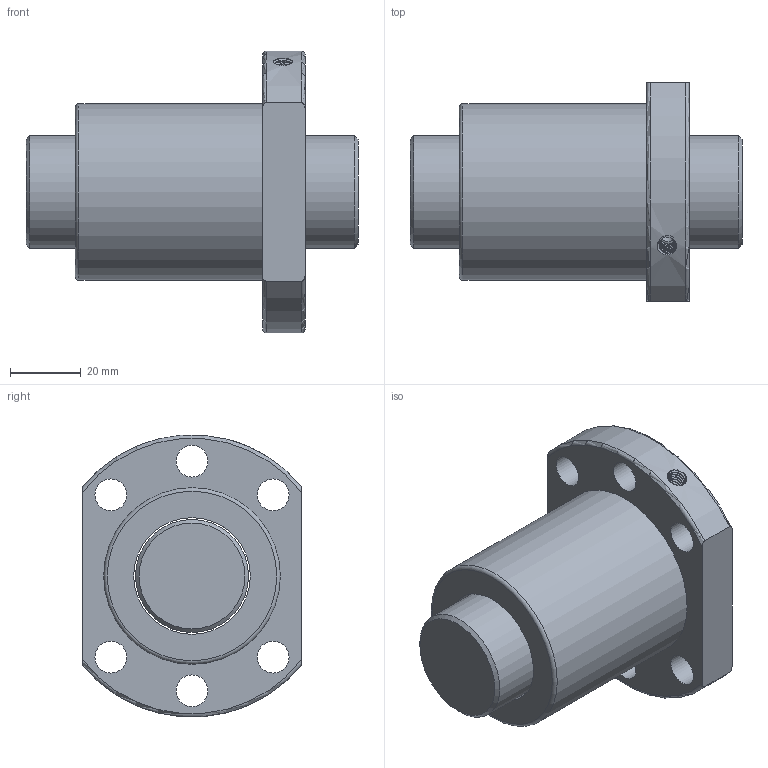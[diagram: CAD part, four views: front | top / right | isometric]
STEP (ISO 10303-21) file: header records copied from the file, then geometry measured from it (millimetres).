
FILE_DESCRIPTION(/* description */ ('Unknown','CAx-IF Rec.Pracs.---Representation and Presentation of Product Manufacturing Information (PMI)---4.0---2014-10-13','CAx-IF Rec.Pracs.---3D Tessellated Geometry---0.4---2014-09-14','2;1'),/* implementation_level */ '2;1');
FILE_NAME(/* name */ 'SFU03208',/* time_stamp */ '2020-12-07T16:50:29+08:00',/* author */ ('Unknown'),/* organization */ ('Unknown'),/* preprocessor_version */ 'ST-DEVELOPER v16.7',/* originating_system */ 'Solid Edge',/* authorisation */ 'Unknown');
FILE_SCHEMA (('AP242_MANAGED_MODEL_BASED_3D_ENGINEERING_MIM_LF { 1 0 10303 442 1 1 4 }'));
Length unit declared in the file: millimetre
Products named in the file (1): SFU03208
Bounding box: 94 x 62 x 79.74 mm (x, y, z)
Volume: 171776 mm3; surface area: 37486.2 mm2
Topology: 2 solids, 2 shells, 31 faces, 73 edges, 48 vertices
Faces by surface type: cylinder 14, plane 8, torus 5, cone 2, bspline 2
Full cylindrical faces by diameter (mm): 4 x1, 9 x6, 32 x1, 33 x1, 50 x1
Entity records: 3240 total; most frequent: CARTESIAN_POINT 2490, DIRECTION 138, ORIENTED_EDGE 118, AXIS2_PLACEMENT_3D 66, EDGE_LOOP 62, FACE_BOUND 62, EDGE_CURVE 59, VERTEX_POINT 47
